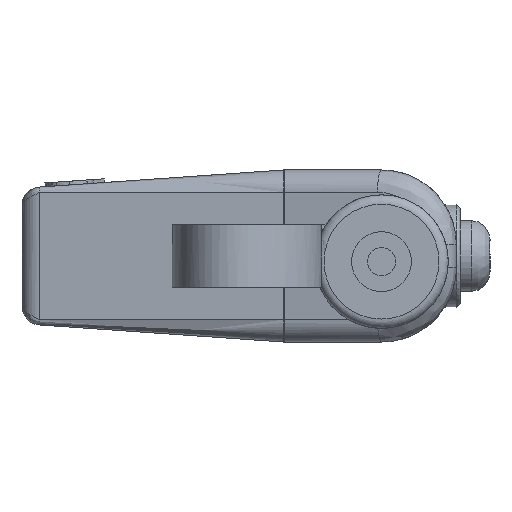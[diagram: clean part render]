
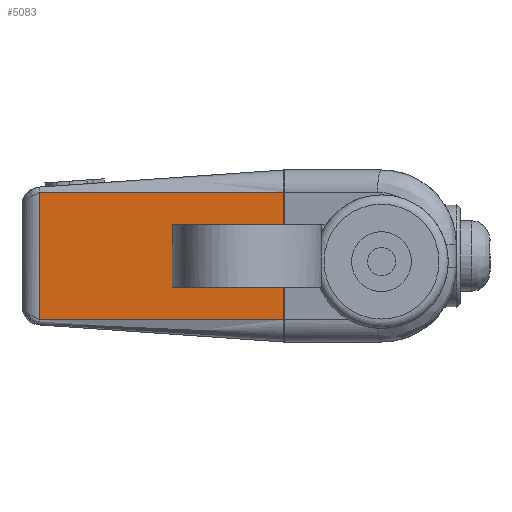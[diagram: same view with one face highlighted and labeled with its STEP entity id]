
A CAD part, left-side view. The second image highlights one B-rep face of the part: STEP entity #5083.
In plain terms, the highlighted planar face has unit normal (-0.998, 0.07, 0) as drawn and (-0.998, 0, 0.07) by its records, which use the part's own axes.
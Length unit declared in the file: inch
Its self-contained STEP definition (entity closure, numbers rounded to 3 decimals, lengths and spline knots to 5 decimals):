
#93=FACE_BOUND('',#914,.T.);
#151=B_SPLINE_CURVE_WITH_KNOTS('',3,(#7575,#7576,#7577,#7578,#7579,#7580),
 .UNSPECIFIED.,.F.,.F.,(4,2,4),(0.,0.21082,0.42164),.UNSPECIFIED.);
#227=B_SPLINE_CURVE_WITH_KNOTS('',3,(#8609,#8610,#8611,#8612),
 .UNSPECIFIED.,.F.,.F.,(4,4),(0.,1.65986),.UNSPECIFIED.);
#424=PLANE('',#5505);
#606=FACE_OUTER_BOUND('',#913,.T.);
#913=EDGE_LOOP('',(#3743,#3744,#3745,#3746));
#914=EDGE_LOOP('',(#3747,#3748,#3749,#3750));
#1316=LINE('',#7503,#1750);
#1317=LINE('',#7518,#1751);
#1320=LINE('',#7534,#1754);
#1333=LINE('',#8020,#1767);
#1395=LINE('',#8605,#1829);
#1396=LINE('',#8613,#1830);
#1750=VECTOR('',#5893,0.3937);
#1751=VECTOR('',#5896,0.3937);
#1754=VECTOR('',#5901,0.3937);
#1767=VECTOR('',#5962,0.3937);
#1829=VECTOR('',#6048,0.3937);
#1830=VECTOR('',#6053,0.3937);
#2189=VERTEX_POINT('',#7500);
#2190=VERTEX_POINT('',#7502);
#2191=VERTEX_POINT('',#7516);
#2192=VERTEX_POINT('',#7517);
#2223=VERTEX_POINT('',#7978);
#2225=VERTEX_POINT('',#8000);
#2343=VERTEX_POINT('',#8604);
#2344=VERTEX_POINT('',#8608);
#2705=EDGE_CURVE('',#2190,#2189,#1316,.T.);
#2707=EDGE_CURVE('',#2191,#2192,#1317,.T.);
#2711=EDGE_CURVE('',#2189,#2191,#1320,.T.);
#2715=EDGE_CURVE('',#2192,#2190,#151,.T.);
#2761=EDGE_CURVE('',#2225,#2223,#1333,.T.);
#2888=EDGE_CURVE('',#2343,#2223,#1395,.T.);
#2890=EDGE_CURVE('',#2344,#2225,#227,.T.);
#2891=EDGE_CURVE('',#2343,#2344,#1396,.T.);
#3743=ORIENTED_EDGE('',*,*,#2761,.F.);
#3744=ORIENTED_EDGE('',*,*,#2890,.F.);
#3745=ORIENTED_EDGE('',*,*,#2891,.F.);
#3746=ORIENTED_EDGE('',*,*,#2888,.T.);
#3747=ORIENTED_EDGE('',*,*,#2707,.T.);
#3748=ORIENTED_EDGE('',*,*,#2715,.T.);
#3749=ORIENTED_EDGE('',*,*,#2705,.T.);
#3750=ORIENTED_EDGE('',*,*,#2711,.T.);
#5083=ADVANCED_FACE('',(#606,#93),#424,.T.);
#5505=AXIS2_PLACEMENT_3D('',#8607,#6051,#6052);
#5893=DIRECTION('',(0.07,0.,0.998));
#5896=DIRECTION('',(-0.07,0.,-0.998));
#5901=DIRECTION('',(0.,-1.,0.));
#5962=DIRECTION('',(0.,-1.,0.));
#6048=DIRECTION('',(0.07,0.,0.998));
#6051=DIRECTION('center_axis',(-0.998,0.,0.07));
#6052=DIRECTION('ref_axis',(0.,-1.,0.));
#6053=DIRECTION('',(0.,1.,0.));
#7500=CARTESIAN_POINT('',(0.08888,0.313,0.58805));
#7502=CARTESIAN_POINT('',(0.08463,0.313,0.52719));
#7503=CARTESIAN_POINT('',(0.08221,0.313,0.49259));
#7516=CARTESIAN_POINT('',(0.08888,0.147,0.58805));
#7517=CARTESIAN_POINT('',(0.08463,0.147,0.52719));
#7518=CARTESIAN_POINT('',(0.08221,0.147,0.49259));
#7534=CARTESIAN_POINT('',(0.08888,0.145,0.58805));
#7575=CARTESIAN_POINT('Ctrl Pts',(0.08463,0.147,0.52719));
#7576=CARTESIAN_POINT('Ctrl Pts',(0.08463,0.17467,
0.52719));
#7577=CARTESIAN_POINT('Ctrl Pts',(0.08463,0.20233,
0.52719));
#7578=CARTESIAN_POINT('Ctrl Pts',(0.08463,0.25767,
0.52719));
#7579=CARTESIAN_POINT('Ctrl Pts',(0.08463,0.28533,0.52719));
#7580=CARTESIAN_POINT('Ctrl Pts',(0.08463,0.313,0.52719));
#7978=CARTESIAN_POINT('',(0.1257,0.06,1.11449));
#8000=CARTESIAN_POINT('',(0.1257,0.4,1.11449));
#8020=CARTESIAN_POINT('',(0.1257,0.145,1.11449));
#8604=CARTESIAN_POINT('',(0.08,0.06,0.461));
#8605=CARTESIAN_POINT('',(0.08,0.06,0.461));
#8607=CARTESIAN_POINT('Origin',(0.08,0.06,0.461));
#8608=CARTESIAN_POINT('',(0.08,0.4,0.461));
#8609=CARTESIAN_POINT('Ctrl Pts',(0.08,0.4,0.461));
#8610=CARTESIAN_POINT('Ctrl Pts',(0.09523,0.4,0.67883));
#8611=CARTESIAN_POINT('Ctrl Pts',(0.11046,0.4,0.89666));
#8612=CARTESIAN_POINT('Ctrl Pts',(0.1257,0.4,1.11449));
#8613=CARTESIAN_POINT('',(0.08,0.06,0.461));
